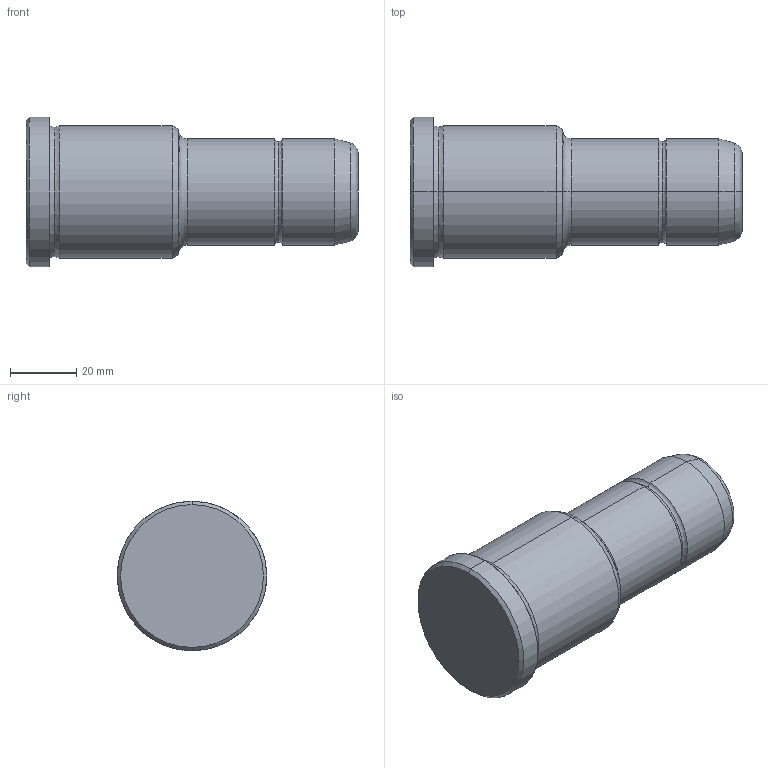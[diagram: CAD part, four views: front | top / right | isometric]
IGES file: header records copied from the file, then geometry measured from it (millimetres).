
Start section: START RECORD GO HERE.
Global section: file name: 351-32X46X100.igs; native system: DASSAULT SYSTEMES CATIA V5 R20 - www.3ds.com; preprocessor: CATIA Version 5 Release 20 ; author: Utente; organization: NB04-ASUS; date: 20210907.150244; units: millimetre
Bounding box: 100 x 45 x 45 mm (x, y, z)
Surface area: 14016.9 mm2 (no closed solid volume)
Topology: 0 solids, 0 shells, 30 faces, 172 edges, 172 vertices
Faces by surface type: revolution 26, plane 4
